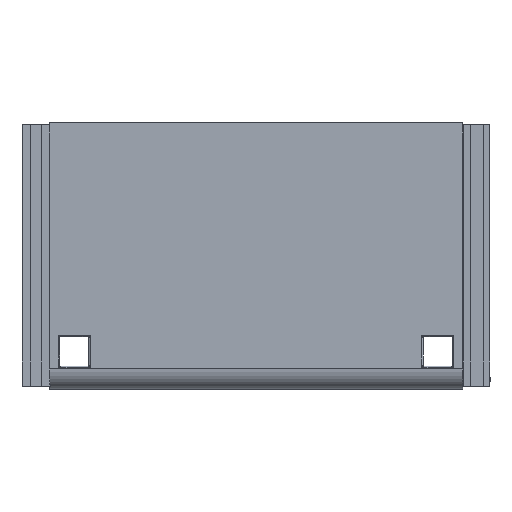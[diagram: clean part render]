
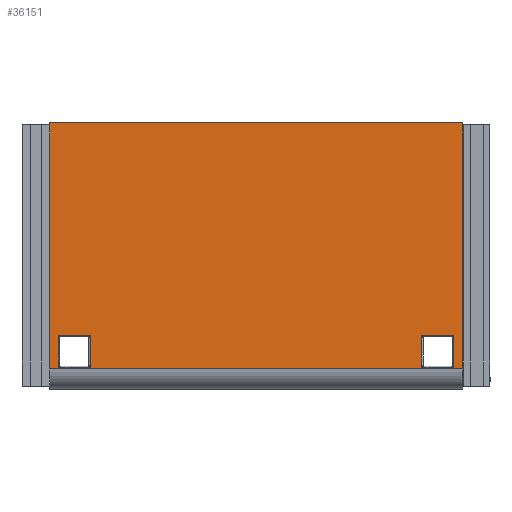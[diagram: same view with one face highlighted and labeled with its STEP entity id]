
A CAD part, front view. The second image highlights one B-rep face of the part: STEP entity #36151.
In plain terms, the highlighted planar face has unit normal (0, -1, 0) as drawn and (0, 0, -1) by its records, which use the part's own axes.
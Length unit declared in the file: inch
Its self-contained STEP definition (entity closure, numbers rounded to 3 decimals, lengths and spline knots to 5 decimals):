
#35744=CARTESIAN_POINT('Vertex',(21.075,5.69733,0.)) ;
#35747=CARTESIAN_POINT('Line Origine',(42.22964,5.69733,0.)) ;
#35751=CARTESIAN_POINT('Vertex',(-21.075,5.69733,0.)) ;
#36053=CARTESIAN_POINT('Axis2P3D Location',(0.,0.,0.)) ;
#36058=CARTESIAN_POINT('Line Origine',(21.075,-6.85133,0.)) ;
#36062=CARTESIAN_POINT('Vertex',(21.075,-19.4,0.)) ;
#36065=CARTESIAN_POINT('Line Origine',(0.,-19.4,0.)) ;
#36069=CARTESIAN_POINT('Vertex',(-21.075,-19.4,0.)) ;
#36072=CARTESIAN_POINT('Line Origine',(-21.075,-6.85133,0.)) ;
#36083=CARTESIAN_POINT('Line Origine',(-16.895,3.897,0.)) ;
#36087=CARTESIAN_POINT('Vertex',(-16.895,2.272,0.)) ;
#36089=CARTESIAN_POINT('Vertex',(-16.895,5.522,0.)) ;
#36092=CARTESIAN_POINT('Line Origine',(-18.52,5.522,0.)) ;
#36096=CARTESIAN_POINT('Vertex',(-20.145,5.522,0.)) ;
#36099=CARTESIAN_POINT('Line Origine',(-20.145,3.897,0.)) ;
#36103=CARTESIAN_POINT('Vertex',(-20.145,2.272,0.)) ;
#36106=CARTESIAN_POINT('Line Origine',(-18.52,2.272,0.)) ;
#36117=CARTESIAN_POINT('Line Origine',(20.145,3.897,0.)) ;
#36121=CARTESIAN_POINT('Vertex',(20.145,2.272,0.)) ;
#36123=CARTESIAN_POINT('Vertex',(20.145,5.522,0.)) ;
#36126=CARTESIAN_POINT('Line Origine',(18.52,5.522,0.)) ;
#36130=CARTESIAN_POINT('Vertex',(16.895,5.522,0.)) ;
#36133=CARTESIAN_POINT('Line Origine',(16.895,3.897,0.)) ;
#36137=CARTESIAN_POINT('Vertex',(16.895,2.272,0.)) ;
#36140=CARTESIAN_POINT('Line Origine',(18.52,2.272,0.)) ;
#35748=DIRECTION('Vector Direction',(-1.,0.,0.)) ;
#36054=DIRECTION('Axis2P3D Direction',(0.,-0.,1.)) ;
#36055=DIRECTION('Axis2P3D XDirection',(1.,0.,-0.)) ;
#36059=DIRECTION('Vector Direction',(0.,1.,0.)) ;
#36066=DIRECTION('Vector Direction',(-1.,0.,0.)) ;
#36073=DIRECTION('Vector Direction',(0.,1.,0.)) ;
#36084=DIRECTION('Vector Direction',(0.,1.,0.)) ;
#36093=DIRECTION('Vector Direction',(-1.,0.,0.)) ;
#36100=DIRECTION('Vector Direction',(0.,-1.,0.)) ;
#36107=DIRECTION('Vector Direction',(1.,0.,0.)) ;
#36118=DIRECTION('Vector Direction',(0.,1.,0.)) ;
#36127=DIRECTION('Vector Direction',(-1.,0.,0.)) ;
#36134=DIRECTION('Vector Direction',(0.,-1.,0.)) ;
#36141=DIRECTION('Vector Direction',(1.,0.,0.)) ;
#36056=AXIS2_PLACEMENT_3D('Plane Axis2P3D',#36053,#36054,#36055) ;
#36078=ORIENTED_EDGE('',*,*,#35753,.F.) ;
#36079=ORIENTED_EDGE('',*,*,#36064,.F.) ;
#36080=ORIENTED_EDGE('',*,*,#36071,.T.) ;
#36081=ORIENTED_EDGE('',*,*,#36076,.T.) ;
#36112=ORIENTED_EDGE('',*,*,#36091,.T.) ;
#36113=ORIENTED_EDGE('',*,*,#36098,.T.) ;
#36114=ORIENTED_EDGE('',*,*,#36105,.T.) ;
#36115=ORIENTED_EDGE('',*,*,#36110,.T.) ;
#36146=ORIENTED_EDGE('',*,*,#36125,.T.) ;
#36147=ORIENTED_EDGE('',*,*,#36132,.T.) ;
#36148=ORIENTED_EDGE('',*,*,#36139,.T.) ;
#36149=ORIENTED_EDGE('',*,*,#36144,.T.) ;
#36116=FACE_BOUND('',#36111,.T.) ;
#36150=FACE_BOUND('',#36145,.T.) ;
#35749=VECTOR('Line Direction',#35748,0.03937) ;
#36060=VECTOR('Line Direction',#36059,0.03937) ;
#36067=VECTOR('Line Direction',#36066,0.03937) ;
#36074=VECTOR('Line Direction',#36073,0.03937) ;
#36085=VECTOR('Line Direction',#36084,0.03937) ;
#36094=VECTOR('Line Direction',#36093,0.03937) ;
#36101=VECTOR('Line Direction',#36100,0.03937) ;
#36108=VECTOR('Line Direction',#36107,0.03937) ;
#36119=VECTOR('Line Direction',#36118,0.03937) ;
#36128=VECTOR('Line Direction',#36127,0.03937) ;
#36135=VECTOR('Line Direction',#36134,0.03937) ;
#36142=VECTOR('Line Direction',#36141,0.03937) ;
#36151=ADVANCED_FACE('Sketched Bend1',(#36082,#36116,#36150),#36057,.F.) ;
#35753=EDGE_CURVE('',#35745,#35752,#35750,.T.) ;
#36064=EDGE_CURVE('',#36063,#35745,#36061,.T.) ;
#36071=EDGE_CURVE('',#36063,#36070,#36068,.T.) ;
#36076=EDGE_CURVE('',#36070,#35752,#36075,.T.) ;
#36091=EDGE_CURVE('',#36088,#36090,#36086,.T.) ;
#36098=EDGE_CURVE('',#36090,#36097,#36095,.T.) ;
#36105=EDGE_CURVE('',#36097,#36104,#36102,.T.) ;
#36110=EDGE_CURVE('',#36104,#36088,#36109,.T.) ;
#36125=EDGE_CURVE('',#36122,#36124,#36120,.T.) ;
#36132=EDGE_CURVE('',#36124,#36131,#36129,.T.) ;
#36139=EDGE_CURVE('',#36131,#36138,#36136,.T.) ;
#36144=EDGE_CURVE('',#36138,#36122,#36143,.T.) ;
#36077=EDGE_LOOP('',(#36078,#36079,#36080,#36081)) ;
#36111=EDGE_LOOP('',(#36112,#36113,#36114,#36115)) ;
#36145=EDGE_LOOP('',(#36146,#36147,#36148,#36149)) ;
#36082=FACE_OUTER_BOUND('',#36077,.T.) ;
#35750=LINE('Line',#35747,#35749) ;
#36061=LINE('Line',#36058,#36060) ;
#36068=LINE('Line',#36065,#36067) ;
#36075=LINE('Line',#36072,#36074) ;
#36086=LINE('Line',#36083,#36085) ;
#36095=LINE('Line',#36092,#36094) ;
#36102=LINE('Line',#36099,#36101) ;
#36109=LINE('Line',#36106,#36108) ;
#36120=LINE('Line',#36117,#36119) ;
#36129=LINE('Line',#36126,#36128) ;
#36136=LINE('Line',#36133,#36135) ;
#36143=LINE('Line',#36140,#36142) ;
#36057=PLANE('',#36056) ;
#35745=VERTEX_POINT('',#35744) ;
#35752=VERTEX_POINT('',#35751) ;
#36063=VERTEX_POINT('',#36062) ;
#36070=VERTEX_POINT('',#36069) ;
#36088=VERTEX_POINT('',#36087) ;
#36090=VERTEX_POINT('',#36089) ;
#36097=VERTEX_POINT('',#36096) ;
#36104=VERTEX_POINT('',#36103) ;
#36122=VERTEX_POINT('',#36121) ;
#36124=VERTEX_POINT('',#36123) ;
#36131=VERTEX_POINT('',#36130) ;
#36138=VERTEX_POINT('',#36137) ;
